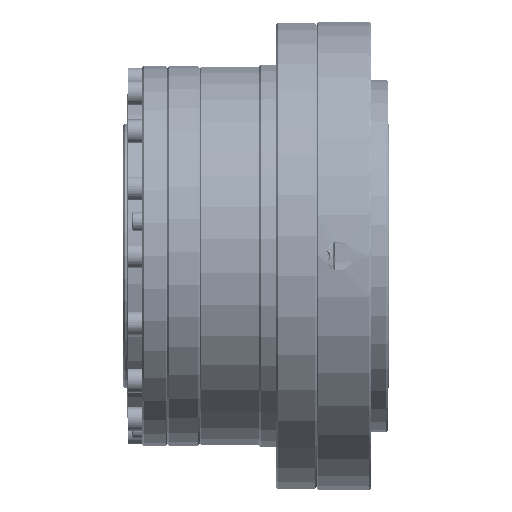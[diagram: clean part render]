
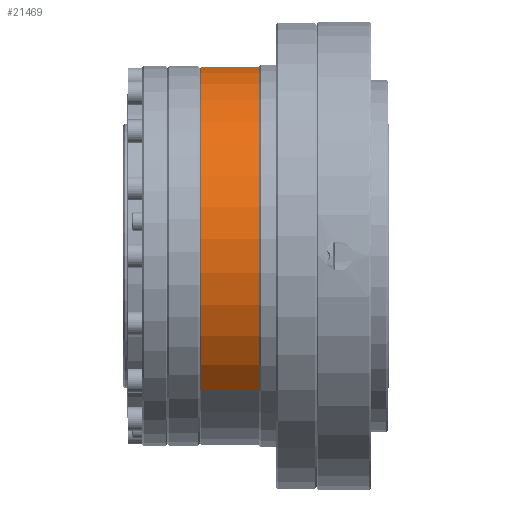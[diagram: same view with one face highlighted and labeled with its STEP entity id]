
A CAD part, front view. The second image highlights one B-rep face of the part: STEP entity #21469.
In plain terms, the highlighted cylindrical face has radius 56 mm (diameter 112 mm), a partial arc.
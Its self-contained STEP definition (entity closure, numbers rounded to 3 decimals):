
#3708 = CARTESIAN_POINT ( 'NONE',  ( -37., 0., 56. ) ) ;
#3811 = CARTESIAN_POINT ( 'NONE',  ( -37., 0., -56. ) ) ;
#4088 = CARTESIAN_POINT ( 'NONE',  ( -20., 0., -56. ) ) ;
#4089 = CARTESIAN_POINT ( 'NONE',  ( -20., 0., 56. ) ) ;
#4131 = DIRECTION ( 'NONE',  ( 1., 0., 0. ) ) ;
#4132 = VECTOR ( 'NONE', #4131, 1000. ) ;
#4133 = CARTESIAN_POINT ( 'NONE',  ( 0., 0., 56. ) ) ;
#4134 = LINE ( 'NONE', #4133, #4132 ) ;
#4210 = DIRECTION ( 'NONE',  ( 1., 0., 0. ) ) ;
#4211 = VECTOR ( 'NONE', #4210, 1000. ) ;
#4212 = CARTESIAN_POINT ( 'NONE',  ( 0., 0., -56. ) ) ;
#4217 = LINE ( 'NONE', #4212, #4211 ) ;
#4585 = FACE_OUTER_BOUND ( 'NONE', #21388, .T. ) ;
#4627 = DIRECTION ( 'NONE',  ( 1., 0., 0. ) ) ;
#4628 = CARTESIAN_POINT ( 'NONE',  ( 0., 0., 0. ) ) ;
#4634 = AXIS2_PLACEMENT_3D ( 'NONE', #4671, #4670, #4669 ) ;
#4635 = AXIS2_PLACEMENT_3D ( 'NONE', #4628, #4627, #4682 ) ;
#4639 = CYLINDRICAL_SURFACE ( 'NONE', #4635, 56. ) ;
#4647 = AXIS2_PLACEMENT_3D ( 'NONE', #4677, #4676, #4675 ) ;
#4669 = DIRECTION ( 'NONE',  ( 0., 0., -1. ) ) ;
#4670 = DIRECTION ( 'NONE',  ( 1., 0., 0. ) ) ;
#4671 = CARTESIAN_POINT ( 'NONE',  ( -20., 0., 0. ) ) ;
#4675 = DIRECTION ( 'NONE',  ( 0., 0., 1. ) ) ;
#4676 = DIRECTION ( 'NONE',  ( 1., 0., 0. ) ) ;
#4677 = CARTESIAN_POINT ( 'NONE',  ( -37., 0., 0. ) ) ;
#4678 = CIRCLE ( 'NONE', #4647, 56. ) ;
#4681 = CIRCLE ( 'NONE', #4634, 56. ) ;
#4682 = DIRECTION ( 'NONE',  ( 0., 0., -1. ) ) ;
#20605 = VERTEX_POINT ( 'NONE', #3708 ) ;
#20662 = VERTEX_POINT ( 'NONE', #3811 ) ;
#20922 = VERTEX_POINT ( 'NONE', #4089 ) ;
#20927 = EDGE_CURVE ( 'NONE', #20605, #20922, #4134, .T. ) ;
#20947 = VERTEX_POINT ( 'NONE', #4088 ) ;
#21014 = EDGE_CURVE ( 'NONE', #20662, #20947, #4217, .T. ) ;
#21388 = EDGE_LOOP ( 'NONE', ( #21457, #21465, #21461, #21432 ) ) ;
#21432 = ORIENTED_EDGE ( 'NONE', *, *, #21471, .F. ) ;
#21457 = ORIENTED_EDGE ( 'NONE', *, *, #20927, .F. ) ;
#21461 = ORIENTED_EDGE ( 'NONE', *, *, #21014, .T. ) ;
#21465 = ORIENTED_EDGE ( 'NONE', *, *, #21470, .T. ) ;
#21469 = ADVANCED_FACE ( 'NONE', ( #4585 ), #4639, .T. ) ;
#21470 = EDGE_CURVE ( 'NONE', #20605, #20662, #4678, .T. ) ;
#21471 = EDGE_CURVE ( 'NONE', #20922, #20947, #4681, .T. ) ;
